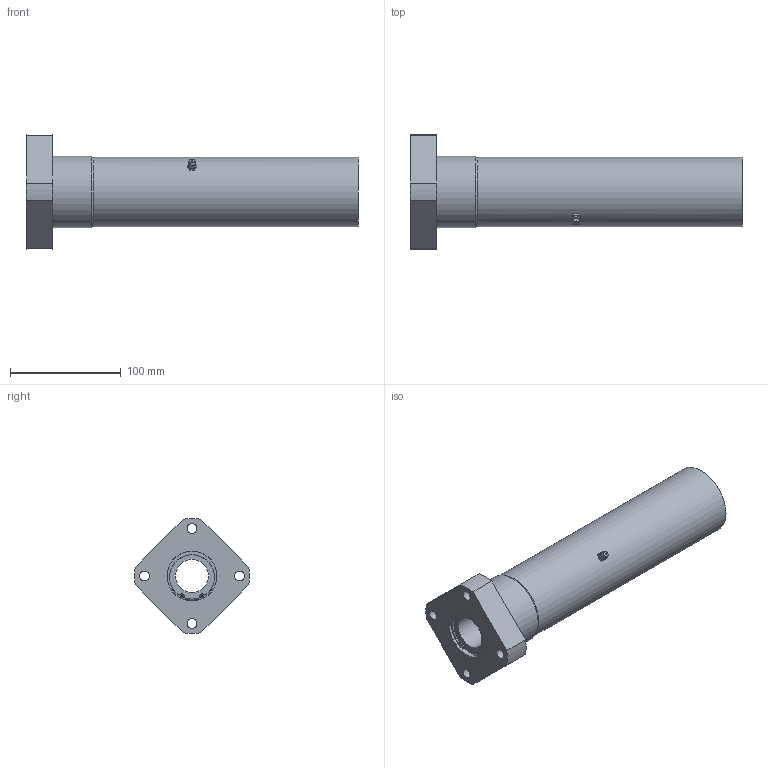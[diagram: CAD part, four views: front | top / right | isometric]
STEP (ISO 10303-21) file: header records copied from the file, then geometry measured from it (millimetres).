
FILE_DESCRIPTION((''),'2;1');
FILE_NAME('D:\製品 (図面)\カタログ用3D\リニアベアリング関連(改)\STEP形式\LFWL\LFWL30B.stp','2010-01-22T16:35:16',('Tsuchiya'),(''),'Autodesk Inventor 10','Autodesk Inventor 10','');
FILE_SCHEMA(('AUTOMOTIVE_DESIGN { 1 0 10303 214 1 1 1 1 }'));
Length unit declared in the file: millimetre
Products named in the file (1): LFWL30B
Bounding box: 300 x 103.86 x 103.86 mm (x, y, z)
Volume: 805590.3 mm3; surface area: 113621.6 mm2
Topology: 1 solids, 7 shells, 114 faces, 286 edges, 177 vertices
Faces by surface type: bspline 36, plane 35, cylinder 31, cone 8, sphere 2, torus 2
Full cylindrical faces by diameter (mm): 2.5 x2, 9 x4, 30 x2, 41.7 x2, 43 x2, 45 x8, 63 x1, 65 x1
Entity records: 3503 total; most frequent: CARTESIAN_POINT 999, DIRECTION 534, ORIENTED_EDGE 452, AXIS2_PLACEMENT_3D 241, EDGE_CURVE 226, EDGE_LOOP 188, VERTEX_POINT 158, CIRCLE 158
